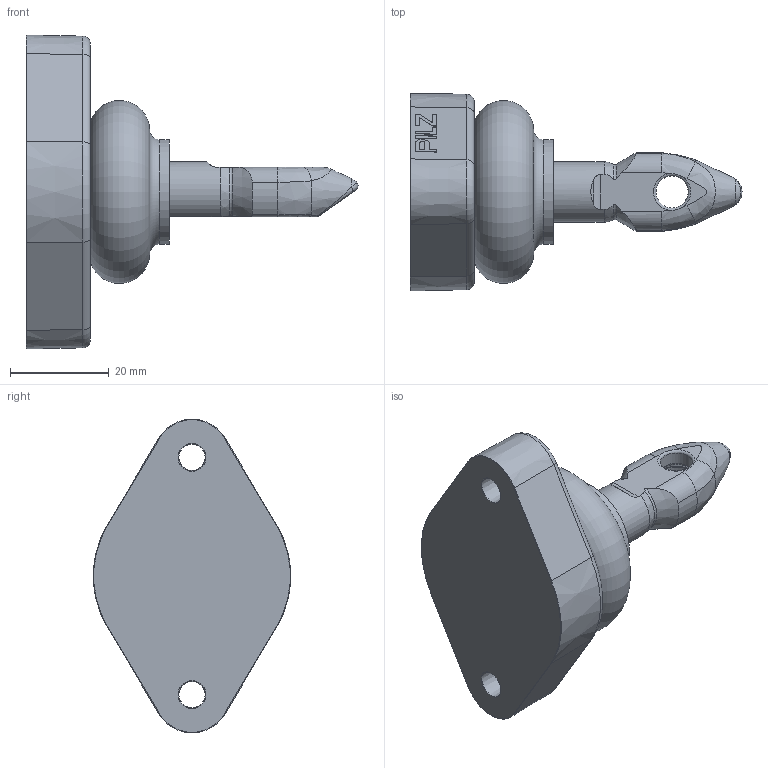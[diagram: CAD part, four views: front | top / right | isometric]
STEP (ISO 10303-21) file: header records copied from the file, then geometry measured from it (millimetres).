
FILE_DESCRIPTION(/* description */ (''),/* implementation_level */ '2;1');
FILE_NAME(/* name */ 'D:\_Vault\Workspace\Projektordner\3-Sensoren\02-STS\10-PSENmlock1\Kundendaten/2022690_B_PSEN_ml_actuator.stp',/* time_stamp */ '2019-02-04T14:25:05+01:00',/* author */ ('rvet'),/* organization */ (''),/* preprocessor_version */ 'ST-DEVELOPER v17.2',/* originating_system */ 'Autodesk Inventor 2019',/* authorisation */ '');
FILE_SCHEMA (('AUTOMOTIVE_DESIGN { 1 0 10303 214 3 1 1 }'));
Length unit declared in the file: millimetre
Products named in the file (1): 2022690
Bounding box: 67.14 x 39.88 x 63.45 mm (x, y, z)
Volume: 36528.6 mm3; surface area: 9370.7 mm2
Topology: 1 solids, 1 shells, 173 faces, 465 edges, 304 vertices
Faces by surface type: plane 73, cylinder 42, torus 29, bspline 14, cone 12, sphere 3
Full cylindrical faces by diameter (mm): 6.5 x1, 10 x1, 21.2 x1
Entity records: 6212 total; most frequent: CARTESIAN_POINT 1663, DIRECTION 936, ORIENTED_EDGE 930, EDGE_CURVE 465, AXIS2_PLACEMENT_3D 357, VERTEX_POINT 304, LINE 222, VECTOR 222
